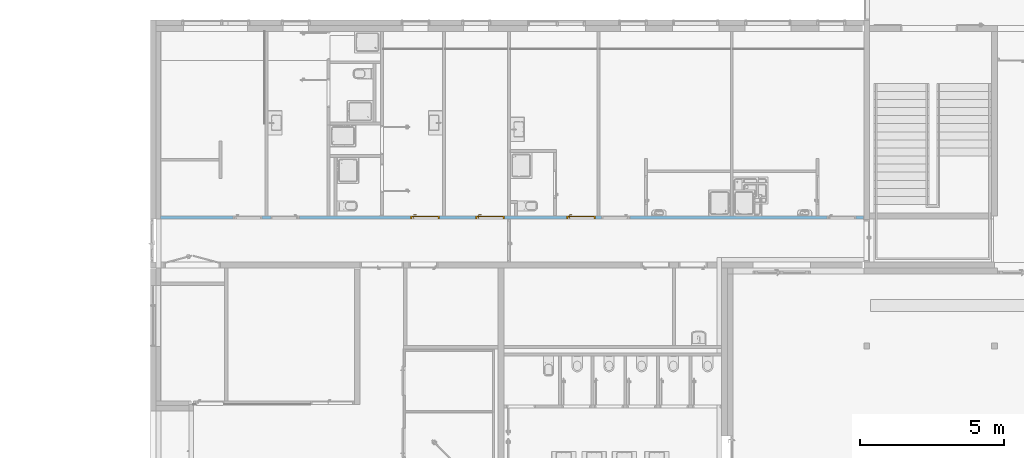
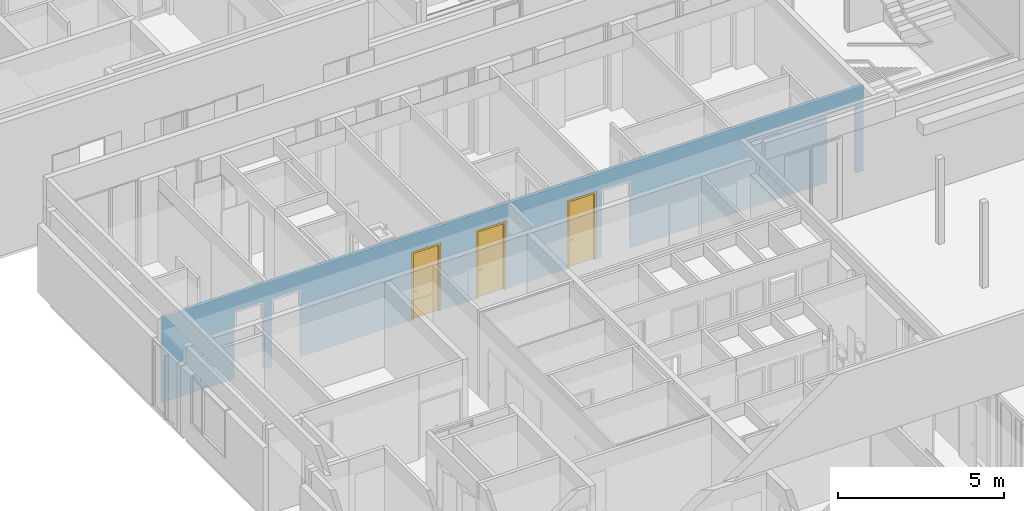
# One storey, part 106 of 240: 3 doors, 7 openings, plus 1 element that does not belong to this part.
"""IFC2X3 building model written with IfcOpenShell, lengths in centimetres."""

from ifc_helpers import new_model, entity, si_unit, converted_unit, derived_unit, direction, frame, frame_2d, origin, place, context, subcontext, project, spatial, rectangle, extrude, faceted_brep, source, transform, mapped, material, material_list, layer, layer_set, layer_usage, type_object, type_shapes, element, fill, save


model = new_model("IFC2X3")

# Units and contexts
model_context = context("Model", 3, precision=0.001, world=origin(), true_north=direction((6.12303176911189e-17, 1.0)))
body_context = subcontext(model_context, "Body", "Model", "MODEL_VIEW")
ifc_project = project(units=[si_unit("LENGTHUNIT", "METRE", prefix="CENTI"), si_unit("AREAUNIT", "SQUARE_METRE"), si_unit("VOLUMEUNIT", "CUBIC_METRE"), converted_unit("PLANEANGLEUNIT", "DEGREE", entity("IfcRatioMeasure", 0.0174532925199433), si_unit("PLANEANGLEUNIT", "RADIAN"), dimensions=[0, 0, 0, 0, 0, 0, 0]), si_unit("MASSUNIT", "GRAM", prefix="KILO"), derived_unit("MASSDENSITYUNIT", [(si_unit("MASSUNIT", "GRAM", prefix="KILO"), 1), (si_unit("LENGTHUNIT", "METRE"), -3)]), si_unit("TIMEUNIT", "SECOND"), si_unit("FREQUENCYUNIT", "HERTZ"), si_unit("THERMODYNAMICTEMPERATUREUNIT", "DEGREE_CELSIUS"), derived_unit("THERMALTRANSMITTANCEUNIT", [(si_unit("MASSUNIT", "GRAM", prefix="KILO"), 1), (si_unit("THERMODYNAMICTEMPERATUREUNIT", "KELVIN"), -1), (si_unit("TIMEUNIT", "SECOND"), -3)]), derived_unit("VOLUMETRICFLOWRATEUNIT", [(si_unit("LENGTHUNIT", "METRE"), 3), (si_unit("TIMEUNIT", "SECOND"), -1)]), si_unit("ELECTRICCURRENTUNIT", "AMPERE"), si_unit("ELECTRICVOLTAGEUNIT", "VOLT"), si_unit("POWERUNIT", "WATT"), si_unit("FORCEUNIT", "NEWTON", prefix="KILO"), si_unit("ILLUMINANCEUNIT", "LUX"), si_unit("LUMINOUSFLUXUNIT", "LUMEN"), si_unit("LUMINOUSINTENSITYUNIT", "CANDELA"), derived_unit("USERDEFINED", [(si_unit("MASSUNIT", "GRAM", prefix="KILO"), -1), (si_unit("LENGTHUNIT", "METRE"), -2), (si_unit("TIMEUNIT", "SECOND"), 3), (si_unit("LUMINOUSFLUXUNIT", "LUMEN"), 1)]), derived_unit("LINEARVELOCITYUNIT", [(si_unit("LENGTHUNIT", "METRE"), 1), (si_unit("TIMEUNIT", "SECOND"), -1)]), si_unit("PRESSUREUNIT", "PASCAL"), derived_unit("USERDEFINED", [(si_unit("LENGTHUNIT", "METRE"), -2), (si_unit("MASSUNIT", "GRAM", prefix="KILO"), 1), (si_unit("TIMEUNIT", "SECOND"), -2)])], contexts=[model_context])

# Site, building, storey
site_placement = place(None, frame((-2781.94577612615, 7442.24238424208, 0.0)))
site = spatial("IfcSite", under=ifc_project, at=site_placement, Name="Default", CompositionType="ELEMENT")
building_placement = place(site_placement, origin())
building = spatial("IfcBuilding", under=site, at=building_placement, CompositionType="ELEMENT")
storey_placement = place(building_placement, origin())
storey = spatial("IfcBuildingStorey", under=building, at=storey_placement, Name="N00 - COO", CompositionType="ELEMENT", Elevation=0.0)

# Wall, openings, doors
ifc_material_1 = material(Name="01 - Enduit/Plâtre")
ifc_layer_1 = layer(ifc_material_1, 1.3)
ifc_material_2 = material(Name="00 - Isolant")
ifc_layer_2 = layer(ifc_material_2, 7.4)
ifc_layer_3 = layer(ifc_material_1, 1.3)
ifc_layer_set = layer_set([ifc_layer_1, ifc_layer_2, ifc_layer_3], Name="Mur de base:06 - cloisons - Ba13 10cm")
ifc_layer_usage = layer_usage(ifc_layer_set, "AXIS2", "NEGATIVE", 5.0)
wall_type = type_object("IfcWallType", Name="Mur de base:06 - cloisons - Ba13 10cm", PredefinedType="STANDARD", material=ifc_layer_set)
wall_placement = place(building_placement, frame((-10866.3130476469, -1755.0, 0.0)))
wall = element("IfcWallStandardCase", 1, at=wall_placement, inside=storey, type_object=wall_type, material=ifc_layer_usage, Name="Mur de base:06 - cloisons - Ba13 10cm", ObjectType="Mur de base:06 - cloisons - Ba13 10cm", context=body_context, shape_type="SweptSolid", body=[
    extrude(rectangle(XDim=2435.48317594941, YDim=9.99999999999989, at=frame_2d((1217.7415879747, 3.37507799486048e-14), x_axis=(-1.0, 0.0))), origin(), (0.0, 0.0, 1.0), 313.0),
])
opening_1_placement = place(wall_placement, frame((2309.31316997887, -5.0, 0.0)))
element("IfcOpeningElement", 2, at=opening_1_placement, cuts=wall, Name="Int. Simple:PP simple (0.93m x 2.50m):1", ObjectType="Opening", context=body_context, shape_type="SweptSolid", body=[
    extrude(rectangle(XDim=248.500000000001, YDim=99.9999999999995, at=frame_2d((124.250000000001, 49.9999999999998), x_axis=(1.0, 0.0))), frame((0.0, 0.0, 0.0), z_axis=(0.0, 1.0, 0.0), x_axis=(0.0, 0.0, 1.0)), (0.0, 0.0, 1.0), 10.0),
])
opening_2_placement = place(wall_placement, frame((1527.31316997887, -5.0, 0.0)))
element("IfcOpeningElement", 3, at=opening_2_placement, cuts=wall, Name="Int. Simple:PP simple (0.93m x 2.50m):1", ObjectType="Opening", context=body_context, shape_type="SweptSolid", body=[
    extrude(rectangle(XDim=248.500000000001, YDim=99.9999999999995, at=frame_2d((124.250000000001, 50.0), x_axis=(1.0, 0.0))), frame((0.0, 0.0, 0.0), z_axis=(0.0, 1.0, 0.0), x_axis=(0.0, 0.0, 1.0)), (0.0, 0.0, 1.0), 10.0),
])
opening_3_placement = place(wall_placement, frame((1406.81316997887, -5.0, 0.0)))
opening_3 = element("IfcOpeningElement", 4, at=opening_3_placement, cuts=wall, Name="Int. Simple:PP simple (0.93m x 2.50m):1", ObjectType="Opening", context=body_context, shape_type="SweptSolid", body=[
    extrude(rectangle(XDim=248.500000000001, YDim=99.9999999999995, at=frame_2d((124.250000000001, 49.9999999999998), x_axis=(1.0, 0.0))), frame((0.0, 0.0, 0.0), z_axis=(0.0, 1.0, 0.0), x_axis=(0.0, 0.0, 1.0)), (0.0, 0.0, 1.0), 10.0),
])
opening_4_placement = place(wall_placement, frame((1091.81316997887, -5.0, 0.0)))
opening_4 = element("IfcOpeningElement", 5, at=opening_4_placement, cuts=wall, Name="Int. Simple:PP simple (0.93m x 2.50m):1", ObjectType="Opening", context=body_context, shape_type="SweptSolid", body=[
    extrude(rectangle(XDim=248.500000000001, YDim=99.9999999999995, at=frame_2d((124.250000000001, 49.9999999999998), x_axis=(1.0, 0.0))), frame((0.0, 0.0, 0.0), z_axis=(0.0, 1.0, 0.0), x_axis=(0.0, 0.0, 1.0)), (0.0, 0.0, 1.0), 10.0),
])
opening_5_placement = place(wall_placement, frame((866.813169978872, -5.0, 0.0)))
opening_5 = element("IfcOpeningElement", 6, at=opening_5_placement, cuts=wall, Name="Int. Simple:PP simple (0.93m x 2.50m):1", ObjectType="Opening", context=body_context, shape_type="SweptSolid", body=[
    extrude(rectangle(XDim=248.500000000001, YDim=99.9999999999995, at=frame_2d((124.250000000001, 49.9999999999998), x_axis=(1.0, 0.0))), frame((0.0, 0.0, 0.0), z_axis=(0.0, 1.0, 0.0), x_axis=(0.0, 0.0, 1.0)), (0.0, 0.0, 1.0), 10.0),
])
opening_6_placement = place(wall_placement, frame((381.813169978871, -5.0, 0.0)))
element("IfcOpeningElement", 7, at=opening_6_placement, cuts=wall, Name="Int. Simple:PP simple (0.93m x 2.50m):1", ObjectType="Opening", context=body_context, shape_type="SweptSolid", body=[
    extrude(rectangle(XDim=248.500000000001, YDim=99.9999999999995, at=frame_2d((124.250000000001, 50.0), x_axis=(1.0, 0.0))), frame((0.0, 0.0, 0.0), z_axis=(0.0, 1.0, 0.0), x_axis=(0.0, 0.0, 1.0)), (0.0, 0.0, 1.0), 10.0),
])
opening_7_placement = place(wall_placement, frame((251.813169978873, -5.0, 0.0)))
element("IfcOpeningElement", 8, at=opening_7_placement, cuts=wall, Name="Int. Simple:PP simple (0.93m x 2.50m):1", ObjectType="Opening", context=body_context, shape_type="SweptSolid", body=[
    extrude(rectangle(XDim=248.500000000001, YDim=99.9999999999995, at=frame_2d((124.250000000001, 49.9999999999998), x_axis=(1.0, 0.0))), frame((0.0, 0.0, 0.0), z_axis=(0.0, 1.0, 0.0), x_axis=(0.0, 0.0, 1.0)), (0.0, 0.0, 1.0), 10.0),
])
ifc_material_3 = material(Name="Finition Peinture - Blanc satiné")
ifc_material_4 = material(Name="Bois - Panneau de porte")
ifc_material_5 = material(Name="Bois - Cadre de porte")
ifc_material_list_1 = material_list([ifc_material_3, ifc_material_4, ifc_material_5])
ifc_material_list_2 = material_list([ifc_material_3, ifc_material_4, ifc_material_5])
door_style = type_object("IfcDoorStyle", Name="PP simple (0.93m x 2.50m)", ConstructionType="NOTDEFINED", OperationType="SINGLE_SWING_RIGHT", ParameterTakesPrecedence=False, Sizeable=False, material=ifc_material_list_2)
shared_shape = source(origin(), body_context, "Body", "Brep", [
    faceted_brep([(99.5000000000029, -0.500000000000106, 87.0), (99.5000000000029, -0.500000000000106, 108.0), (98.535276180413, -0.500000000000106, 108.399601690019), (97.5000000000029, -0.500000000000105, 108.535898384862), (96.4647238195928, -0.500000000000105, 108.399601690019), (95.500000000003, -0.500000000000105, 108.0), (95.5000000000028, -0.500000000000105, 87.0), (96.4647238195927, -0.500000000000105, 86.6003983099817), (97.5000000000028, -0.500000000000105, 86.464101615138), (98.5352761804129, -0.500000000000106, 86.6003983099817), (99.5000000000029, 0.0, 108.0), (99.5000000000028, 0.0, 87.0), (98.5352761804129, 0.0, 86.6003983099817), (97.5000000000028, 0.0, 86.464101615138), (96.4647238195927, 0.0, 86.6003983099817), (95.5000000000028, 0.0, 87.0), (95.5000000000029, 0.0, 108.0), (96.4647238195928, 0.0, 108.399601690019), (97.5000000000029, 0.0, 108.535898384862), (98.535276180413, 0.0, 108.399601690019)], [[[0, 1, 2, 3, 4, 5, 6, 7, 8, 9]], [[10, 11, 12, 13, 14, 15, 16, 17, 18, 19]], [[9, 12, 11, 0]], [[8, 13, 12, 9]], [[7, 14, 13, 8]], [[7, 6, 15, 14]], [[15, 6, 5, 16]], [[4, 17, 16, 5]], [[3, 18, 17, 4]], [[2, 19, 18, 3]], [[2, 1, 10, 19]], [[11, 10, 1, 0]]]),
    faceted_brep([(99.5000000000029, 4.0, 87.0), (99.5000000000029, 4.0, 108.0), (98.535276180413, 4.0, 108.399601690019), (97.5000000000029, 4.0, 108.535898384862), (96.4647238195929, 4.0, 108.399601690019), (95.500000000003, 4.0, 108.0), (95.5000000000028, 4.0, 87.0), (96.4647238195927, 4.0, 86.6003983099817), (97.5000000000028, 4.0, 86.464101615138), (98.5352761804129, 4.0, 86.6003983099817), (97.5000000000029, 4.49999999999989, 108.535898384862), (98.535276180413, 4.49999999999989, 108.399601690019), (99.5000000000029, 4.49999999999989, 108.0), (99.5000000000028, 4.49999999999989, 87.0), (98.5352761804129, 4.49999999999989, 86.6003983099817), (97.5000000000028, 4.49999999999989, 86.464101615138), (96.4647238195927, 4.49999999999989, 86.6003983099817), (95.5000000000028, 4.49999999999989, 87.0), (95.500000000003, 4.49999999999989, 108.0), (96.4647238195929, 4.49999999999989, 108.399601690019)], [[[0, 1, 2, 3, 4, 5, 6, 7, 8, 9]], [[10, 11, 12, 13, 14, 15, 16, 17, 18, 19]], [[4, 19, 18, 5]], [[3, 10, 19, 4]], [[2, 11, 10, 3]], [[2, 1, 12, 11]], [[13, 12, 1, 0]], [[9, 14, 13, 0]], [[8, 15, 14, 9]], [[7, 16, 15, 8]], [[7, 6, 17, 16]], [[17, 6, 5, 18]]]),
    faceted_brep([(97.2974701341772, -0.50000000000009, 100.778044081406), (97.7025298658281, -0.500000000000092, 100.778044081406), (98.1000000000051, -0.500000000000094, 100.699999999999), (98.100000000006, -0.500000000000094, 99.2999999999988), (97.7025298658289, -0.500000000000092, 99.221955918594), (97.297470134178, -0.50000000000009, 99.2219559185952), (96.9000000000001, -0.500000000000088, 99.3000000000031), (96.9000000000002, -0.500000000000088, 100.7), (97.7025298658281, -3.10045754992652, 100.778044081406), (98.1000000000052, -3.26509507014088, 100.7), (97.2974701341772, -2.93267631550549, 100.778044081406), (95.9298602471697, -4.30028620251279, 100.778044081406), (96.0976414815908, -4.70534593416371, 100.778044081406), (96.9000000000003, -2.76803879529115, 100.7), (96.9000000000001, -2.76803879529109, 99.3000000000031), (97.297470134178, -2.93267631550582, 99.2219559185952), (97.7025298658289, -3.10045754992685, 99.221955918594), (96.0976414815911, -4.70534593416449, 99.221955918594), (95.9298602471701, -4.30028620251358, 99.2219559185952), (98.100000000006, -3.26509507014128, 99.2999999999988), (96.2622790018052, -5.10281606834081, 100.7), (95.7652227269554, -3.90281606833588, 100.7), (95.7652227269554, -3.90281606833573, 99.3000000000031), (96.2622790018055, -5.10281606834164, 99.2999999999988), (87.4981359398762, -5.10281606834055, 100.7), (87.4981359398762, -4.70534593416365, 100.778044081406), (87.4981359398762, -4.30028620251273, 100.778044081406), (87.4981359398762, -3.90281606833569, 100.699999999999), (87.4981359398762, -3.90281606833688, 99.3000000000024), (87.4981359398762, -4.30028620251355, 99.2219559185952), (87.4981359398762, -4.70534593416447, 99.221955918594), (87.4981359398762, -5.10281606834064, 99.2999999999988), (91.7139980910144, -4.5028160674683, 100.78786867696), (92.2692302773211, -5.1028160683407, 100.7), (91.6316793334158, -3.9028160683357, 100.7), (91.631679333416, -3.9028160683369, 99.3000000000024), (91.7139981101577, -4.50281607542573, 99.2121313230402), (92.2692310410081, -5.10281606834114, 99.2999999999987)], [[[0, 1, 2, 3, 4, 5, 6, 7]], [[2, 1, 8, 9]], [[1, 0, 10, 11, 12, 8]], [[0, 7, 13, 10]], [[14, 13, 7, 6]], [[5, 15, 14, 6]], [[5, 4, 16, 17, 18, 15]], [[3, 19, 16, 4]], [[9, 19, 3, 2]], [[9, 8, 12, 20]], [[10, 13, 21, 11]], [[22, 21, 13, 14]], [[14, 15, 18, 22]], [[16, 19, 23, 17]], [[20, 23, 19, 9]], [[24, 25, 26, 27, 28, 29, 30, 31]], [[32, 25, 33]], [[33, 25, 24]], [[33, 20, 12]], [[11, 34, 32]], [[34, 11, 21]], [[27, 26, 34]], [[32, 26, 25]], [[32, 34, 26]], [[32, 33, 12]], [[11, 32, 12]], [[21, 22, 35, 28, 27, 34]], [[36, 29, 35]], [[30, 36, 37]], [[18, 35, 22]], [[29, 28, 35]], [[30, 37, 31]], [[37, 17, 23]], [[36, 17, 37]], [[36, 18, 17]], [[36, 35, 18]], [[29, 36, 30]], [[23, 20, 33, 24, 31, 37]]]),
    faceted_brep([(97.2974701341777, 4.49999999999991, 99.2219559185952), (97.7025298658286, 4.49999999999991, 99.221955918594), (98.1000000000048, 4.4999999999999, 99.2999999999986), (98.1000000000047, 4.4999999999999, 100.7), (97.7025298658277, 4.49999999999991, 100.778044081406), (97.2974701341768, 4.49999999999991, 100.778044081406), (96.8999999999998, 4.49999999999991, 100.7), (96.900000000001, 4.49999999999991, 99.3000000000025), (96.8999999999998, 6.7485204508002, 100.7), (96.8999999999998, 6.74852045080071, 99.3000000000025), (97.2974701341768, 6.91315797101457, 100.778044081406), (97.7025298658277, 7.0809392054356, 100.778044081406), (96.0838906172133, 8.69957845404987, 100.778044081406), (95.9161093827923, 8.29451872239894, 100.778044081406), (98.1000000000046, 7.24557672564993, 100.7), (98.1000000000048, 7.24557672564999, 99.2999999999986), (97.7025298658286, 7.08093920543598, 99.221955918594), (97.2974701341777, 6.91315797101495, 99.2219559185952), (95.9161093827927, 8.29451872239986, 99.2219559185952), (96.0838906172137, 8.69957845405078, 99.221955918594), (95.751471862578, 7.89704858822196, 100.7), (95.7514718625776, 7.89704858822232, 99.3000000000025), (96.2485281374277, 9.09704858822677, 100.7), (96.2485281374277, 9.09704858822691, 99.2999999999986), (87.4954216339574, 8.29451872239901, 100.778044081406), (87.4954216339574, 8.69957845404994, 100.778044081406), (87.4954216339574, 9.09704858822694, 100.7), (87.4954216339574, 9.09704858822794, 99.2999999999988), (87.4954216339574, 8.6995784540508, 99.221955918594), (87.4954216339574, 8.29451872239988, 99.2219559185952), (87.4954216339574, 7.89704858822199, 99.3000000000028), (87.4954216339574, 7.89704858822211, 100.7), (91.6234467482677, 7.89704858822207, 100.7), (91.6234479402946, 7.89704858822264, 99.3000000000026), (91.7057655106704, 8.49704858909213, 100.78786867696), (92.255479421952, 9.09704858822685, 100.7), (92.2554795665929, 9.09704858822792, 99.2999999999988), (91.7057654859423, 8.49704858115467, 99.2121313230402)], [[[0, 1, 2, 3, 4, 5, 6, 7]], [[8, 9, 7, 6]], [[5, 10, 8, 6]], [[5, 4, 11, 12, 13, 10]], [[3, 14, 11, 4]], [[14, 3, 2, 15]], [[2, 1, 16, 15]], [[1, 0, 17, 18, 19, 16]], [[0, 7, 9, 17]], [[20, 21, 9, 8]], [[8, 10, 13, 20]], [[14, 22, 12, 11]], [[23, 22, 14, 15]], [[15, 16, 19, 23]], [[17, 9, 21, 18]], [[24, 25, 26, 27, 28, 29, 30, 31]], [[21, 20, 32, 31, 30, 33]], [[34, 24, 32]], [[25, 34, 35]], [[13, 32, 20]], [[24, 31, 32]], [[25, 35, 26]], [[35, 12, 22]], [[34, 12, 35]], [[34, 13, 12]], [[34, 32, 13]], [[24, 34, 25]], [[22, 23, 36, 27, 26, 35]], [[37, 28, 36]], [[36, 28, 27]], [[36, 23, 19]], [[18, 33, 37]], [[33, 18, 21]], [[30, 29, 33]], [[37, 29, 28]], [[37, 33, 29]], [[37, 36, 19]], [[18, 37, 19]]]),
    faceted_brep([(103.500000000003, 4.0, 245.0), (103.500000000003, 4.0, 0.0), (10.5000000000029, 4.0, 0.0), (10.5000000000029, 4.0, 245.0), (103.500000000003, 0.0, 245.0), (10.5000000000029, 0.0, 245.0), (10.5000000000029, 0.0, 0.0), (103.500000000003, 0.0, 0.0)], [[[0, 1, 2, 3]], [[4, 5, 6, 7]], [[3, 5, 4, 0]], [[2, 6, 5, 3]], [[1, 7, 6, 2]], [[0, 4, 7, 1]]]),
    faceted_brep([(107.0, 10.0, 0.0), (107.0, 0.0, 0.0), (108.500000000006, 0.0, 0.0), (108.500000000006, -0.500000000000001, 0.0), (103.500000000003, -0.500000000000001, 0.0), (103.500000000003, 4.0, 0.0), (102.0, 4.0, 0.0), (102.0, 10.5000000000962, 0.0), (108.500000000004, 10.5000000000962, 0.0), (108.500000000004, 10.0, 0.0), (107.0, 10.0, 248.500000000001), (107.0, 0.0, 248.500000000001), (108.500000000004, 10.0, 250.0), (5.50000000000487, 10.0, 250.0), (5.50000000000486, 10.0, 0.0), (7.0, 10.0, 0.0), (7.0, 10.0, 248.500000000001), (102.0, 4.0, 243.5), (102.0, 10.5000000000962, 243.5), (103.500000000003, 4.0, 245.0), (10.5000000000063, 4.0, 245.0), (10.5000000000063, 4.0, 0.0), (12.0, 4.0, 0.0), (12.0, 4.0, 243.5), (7.0, 0.0, 0.0), (7.0, 0.0, 248.500000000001), (5.50000000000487, 10.5000000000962, 0.0), (12.0, 10.5000000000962, 0.0), (10.5000000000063, -0.500000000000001, 0.0), (5.5000000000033, -0.500000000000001, 0.0), (5.5000000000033, 0.0, 0.0), (12.0, 10.5000000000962, 243.5), (103.500000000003, -0.500000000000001, 245.0), (108.500000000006, -0.500000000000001, 250.0), (5.5000000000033, -0.500000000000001, 250.0), (10.5000000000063, -0.500000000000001, 245.0), (108.500000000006, 0.0, 250.0), (5.50000000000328, 0.0, 250.0), (108.500000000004, 10.5000000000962, 250.0), (5.50000000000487, 10.5000000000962, 250.0)], [[[0, 1, 2, 3, 4, 5, 6, 7, 8, 9]], [[0, 10, 11, 1]], [[9, 12, 13, 14, 15, 16, 10, 0]], [[7, 6, 17, 18]], [[5, 19, 20, 21, 22, 23, 17, 6]], [[16, 15, 24, 25]], [[15, 14, 26, 27, 22, 21, 28, 29, 30, 24]], [[23, 22, 27, 31]], [[10, 16, 25, 11]], [[17, 23, 31, 18]], [[5, 4, 32, 19]], [[3, 33, 34, 29, 28, 35, 32, 4]], [[2, 36, 33, 3]], [[1, 11, 25, 24, 30, 37, 36, 2]], [[8, 38, 12, 9]], [[7, 18, 31, 27, 26, 39, 38, 8]], [[35, 28, 21, 20]], [[37, 30, 29, 34]], [[39, 26, 14, 13]], [[32, 35, 20, 19]], [[36, 37, 34, 33]], [[38, 39, 13, 12]]]),
])
type_shapes(door_style, [shared_shape])
door_1_placement = place(opening_3_placement, frame((107.0, 10.0, 0.0), z_axis=(0.0, 0.0, 1.0), x_axis=(-1.0, 0.0, 0.0)))
door_1 = element("IfcDoor", 9, at=door_1_placement, inside=storey, type_object=door_style, material=ifc_material_list_1, Name="Int. Simple:PP simple (0.93m x 2.50m)", ObjectType="Int. Simple:PP simple (0.93m x 2.50m)", OverallHeight=248.500000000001, OverallWidth=99.9999999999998, context=body_context, shape_type="MappedRepresentation", body=[
    mapped(shared_shape, transform((0.0, 0.0, 0.0), scale=1.0)),
])
fill(opening_3, door_1)
ifc_material_list_3 = material_list([ifc_material_3, ifc_material_4, ifc_material_5])
door_2_placement = place(opening_4_placement, frame((107.0, 10.0, 0.0), z_axis=(0.0, 0.0, 1.0), x_axis=(-1.0, 0.0, 0.0)))
door_2 = element("IfcDoor", 10, at=door_2_placement, inside=storey, type_object=door_style, material=ifc_material_list_3, Name="Int. Simple:PP simple (0.93m x 2.50m)", ObjectType="Int. Simple:PP simple (0.93m x 2.50m)", OverallHeight=248.500000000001, OverallWidth=99.9999999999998, context=body_context, shape_type="MappedRepresentation", body=[
    mapped(shared_shape, transform((0.0, 0.0, 0.0), scale=1.0)),
])
fill(opening_4, door_2)
ifc_material_list_4 = material_list([ifc_material_3, ifc_material_4, ifc_material_5])
door_3_placement = place(opening_5_placement, frame((107.0, 10.0, 0.0), z_axis=(0.0, 0.0, 1.0), x_axis=(-1.0, 0.0, 0.0)))
door_3 = element("IfcDoor", 11, at=door_3_placement, inside=storey, type_object=door_style, material=ifc_material_list_4, Name="Int. Simple:PP simple (0.93m x 2.50m)", ObjectType="Int. Simple:PP simple (0.93m x 2.50m)", OverallHeight=248.500000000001, OverallWidth=99.9999999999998, context=body_context, shape_type="MappedRepresentation", body=[
    mapped(shared_shape, transform((0.0, 0.0, 0.0), scale=1.0)),
])
fill(opening_5, door_3)

save(model, "model.ifc")
